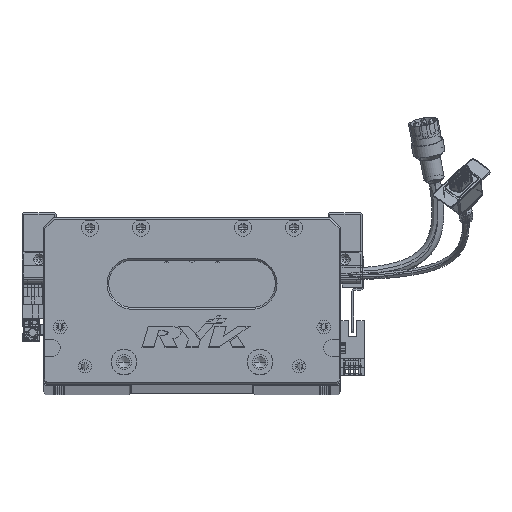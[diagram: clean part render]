
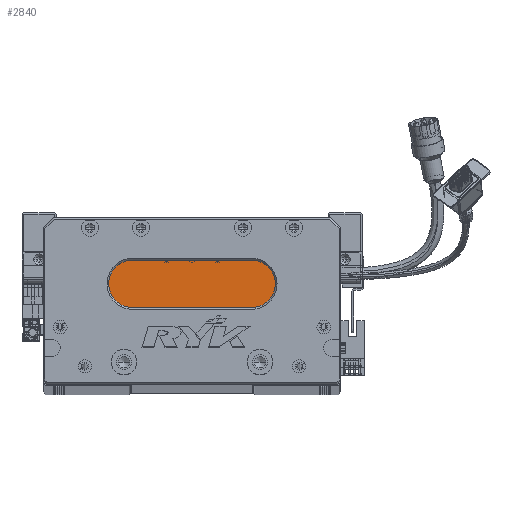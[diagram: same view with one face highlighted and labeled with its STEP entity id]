
A CAD part, top view. The second image highlights one B-rep face of the part: STEP entity #2840.
In plain terms, the highlighted planar face has unit normal (0, 0, 1) as drawn and (0, 0, -1) by its records, which use the part's own axes.
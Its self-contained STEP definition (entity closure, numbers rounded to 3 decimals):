
#181 = EDGE_CURVE ( 'NONE', #97285, #3201, #93719, .T. ) ;
#2840 = ADVANCED_FACE ( 'NONE', ( #21487 ), #108587, .T. ) ;
#3201 = VERTEX_POINT ( 'NONE', #120222 ) ;
#3722 = AXIS2_PLACEMENT_3D ( 'NONE', #93928, #61666, #82242 ) ;
#4740 = CARTESIAN_POINT ( 'NONE',  ( 122.5, 45., 18. ) ) ;
#6339 = AXIS2_PLACEMENT_3D ( 'NONE', #34241, #67493, #44967 ) ;
#7898 = DIRECTION ( 'NONE',  ( 0., 0., -1. ) ) ;
#15997 = VERTEX_POINT ( 'NONE', #51865 ) ;
#21487 = FACE_OUTER_BOUND ( 'NONE', #70386, .T. ) ;
#24912 = CIRCLE ( 'NONE', #3722, 14. ) ;
#34241 = CARTESIAN_POINT ( 'NONE',  ( 122.5, 59., 18. ) ) ;
#39702 = CARTESIAN_POINT ( 'NONE',  ( 52.5, 59., 18. ) ) ;
#39819 = VERTEX_POINT ( 'NONE', #67349 ) ;
#42466 = EDGE_CURVE ( 'NONE', #3201, #112967, #24912, .T. ) ;
#44060 = DIRECTION ( 'NONE',  ( 0., 0., -1. ) ) ;
#44967 = DIRECTION ( 'NONE',  ( -1., 0., 0. ) ) ;
#51865 = CARTESIAN_POINT ( 'NONE',  ( 122.5, 73., 18. ) ) ;
#52316 = ORIENTED_EDGE ( 'NONE', *, *, #181, .T. ) ;
#54225 = CIRCLE ( 'NONE', #106801, 14. ) ;
#61666 = DIRECTION ( 'NONE',  ( 0., 0., -1. ) ) ;
#67349 = CARTESIAN_POINT ( 'NONE',  ( 122.5, 45., 18. ) ) ;
#67493 = DIRECTION ( 'NONE',  ( 0., 0., -1. ) ) ;
#68650 = LINE ( 'NONE', #70179, #125498 ) ;
#70179 = CARTESIAN_POINT ( 'NONE',  ( 122.5, 73., 18. ) ) ;
#70386 = EDGE_LOOP ( 'NONE', ( #103688, #109445, #52316, #79195, #83632 ) ) ;
#77291 = CARTESIAN_POINT ( 'NONE',  ( 52.5, 73., 18. ) ) ;
#79195 = ORIENTED_EDGE ( 'NONE', *, *, #42466, .T. ) ;
#82242 = DIRECTION ( 'NONE',  ( -1., 0., 0. ) ) ;
#83255 = DIRECTION ( 'NONE',  ( -1., 0., 0. ) ) ;
#83632 = ORIENTED_EDGE ( 'NONE', *, *, #108721, .T. ) ;
#89258 = CARTESIAN_POINT ( 'NONE',  ( 52.5, 45., 18. ) ) ;
#89823 = LINE ( 'NONE', #4740, #93176 ) ;
#93176 = VECTOR ( 'NONE', #133805, 1000. ) ;
#93719 = CIRCLE ( 'NONE', #113716, 14. ) ;
#93928 = CARTESIAN_POINT ( 'NONE',  ( 52.5, 59., 18. ) ) ;
#97285 = VERTEX_POINT ( 'NONE', #89258 ) ;
#103688 = ORIENTED_EDGE ( 'NONE', *, *, #135365, .T. ) ;
#106801 = AXIS2_PLACEMENT_3D ( 'NONE', #108126, #44060, #107662 ) ;
#107662 = DIRECTION ( 'NONE',  ( -1., 0., 0. ) ) ;
#108126 = CARTESIAN_POINT ( 'NONE',  ( 122.5, 59., 18. ) ) ;
#108587 = PLANE ( 'NONE',  #6339 ) ;
#108721 = EDGE_CURVE ( 'NONE', #112967, #15997, #68650, .T. ) ;
#109445 = ORIENTED_EDGE ( 'NONE', *, *, #128845, .T. ) ;
#112967 = VERTEX_POINT ( 'NONE', #77291 ) ;
#113716 = AXIS2_PLACEMENT_3D ( 'NONE', #39702, #7898, #83255 ) ;
#120222 = CARTESIAN_POINT ( 'NONE',  ( 38.5, 59., 18. ) ) ;
#122552 = DIRECTION ( 'NONE',  ( 1., 0., 0. ) ) ;
#125498 = VECTOR ( 'NONE', #122552, 1000. ) ;
#128845 = EDGE_CURVE ( 'NONE', #39819, #97285, #89823, .T. ) ;
#133805 = DIRECTION ( 'NONE',  ( -1., 0., 0. ) ) ;
#135365 = EDGE_CURVE ( 'NONE', #15997, #39819, #54225, .T. ) ;
